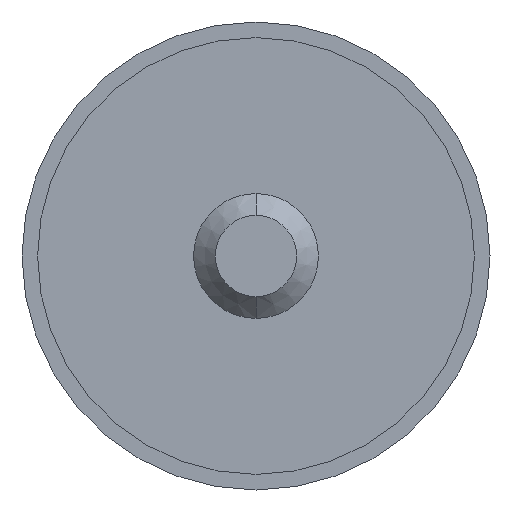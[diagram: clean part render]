
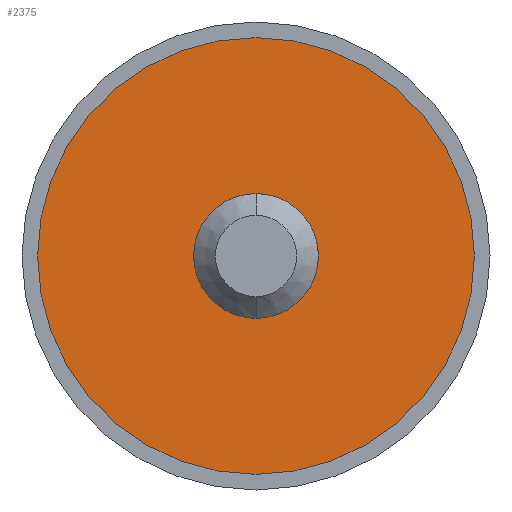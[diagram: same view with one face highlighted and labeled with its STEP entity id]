
A CAD part, front view. The second image highlights one B-rep face of the part: STEP entity #2375.
In plain terms, the highlighted planar face has unit normal (0, -1, 0).
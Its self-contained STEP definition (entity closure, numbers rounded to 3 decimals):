
#60 = VERTEX_POINT ( 'NONE', #3833 ) ;
#130 = DIRECTION ( 'NONE',  ( 0., 1., 0. ) ) ;
#323 = DIRECTION ( 'NONE',  ( 0., 0., 1. ) ) ;
#438 = EDGE_LOOP ( 'NONE', ( #1744, #2584 ) ) ;
#439 = DIRECTION ( 'NONE',  ( 0., 0., 1. ) ) ;
#562 = CIRCLE ( 'NONE', #3348, 2. ) ;
#751 = CARTESIAN_POINT ( 'NONE',  ( 0., -0.5, 2. ) ) ;
#753 = DIRECTION ( 'NONE',  ( 0., -1., 0. ) ) ;
#1021 = AXIS2_PLACEMENT_3D ( 'NONE', #3658, #4348, #323 ) ;
#1316 = AXIS2_PLACEMENT_3D ( 'NONE', #3145, #2383, #2034 ) ;
#1645 = AXIS2_PLACEMENT_3D ( 'NONE', #3078, #4515, #3804 ) ;
#1744 = ORIENTED_EDGE ( 'NONE', *, *, #3604, .F. ) ;
#1806 = VERTEX_POINT ( 'NONE', #4616 ) ;
#1817 = CARTESIAN_POINT ( 'NONE',  ( 0., -0.5, 0. ) ) ;
#1955 = ORIENTED_EDGE ( 'NONE', *, *, #3523, .F. ) ;
#2034 = DIRECTION ( 'NONE',  ( 0., 0., -1. ) ) ;
#2155 = EDGE_LOOP ( 'NONE', ( #1955, #3640 ) ) ;
#2222 = CARTESIAN_POINT ( 'NONE',  ( 0., -0.5, 7. ) ) ;
#2236 = VERTEX_POINT ( 'NONE', #751 ) ;
#2241 = FACE_OUTER_BOUND ( 'NONE', #2155, .T. ) ;
#2375 = ADVANCED_FACE ( 'NONE', ( #3563, #2241 ), #2647, .F. ) ;
#2383 = DIRECTION ( 'NONE',  ( 0., -1., 0. ) ) ;
#2457 = CIRCLE ( 'NONE', #1316, 2. ) ;
#2584 = ORIENTED_EDGE ( 'NONE', *, *, #4604, .F. ) ;
#2647 = PLANE ( 'NONE',  #4487 ) ;
#2804 = CIRCLE ( 'NONE', #1645, 7. ) ;
#3078 = CARTESIAN_POINT ( 'NONE',  ( 0., -0.5, 0. ) ) ;
#3145 = CARTESIAN_POINT ( 'NONE',  ( 0., -0.5, 0. ) ) ;
#3348 = AXIS2_PLACEMENT_3D ( 'NONE', #1817, #753, #4391 ) ;
#3388 = CARTESIAN_POINT ( 'NONE',  ( 0., -0.5, 0. ) ) ;
#3523 = EDGE_CURVE ( 'NONE', #3859, #60, #2804, .T. ) ;
#3563 = FACE_BOUND ( 'NONE', #438, .T. ) ;
#3604 = EDGE_CURVE ( 'NONE', #2236, #1806, #2457, .T. ) ;
#3640 = ORIENTED_EDGE ( 'NONE', *, *, #4102, .F. ) ;
#3658 = CARTESIAN_POINT ( 'NONE',  ( 0., -0.5, 0. ) ) ;
#3804 = DIRECTION ( 'NONE',  ( 0., 0., 1. ) ) ;
#3833 = CARTESIAN_POINT ( 'NONE',  ( 0., -0.5, -7. ) ) ;
#3859 = VERTEX_POINT ( 'NONE', #2222 ) ;
#4102 = EDGE_CURVE ( 'NONE', #60, #3859, #4500, .T. ) ;
#4348 = DIRECTION ( 'NONE',  ( 0., 1., 0. ) ) ;
#4391 = DIRECTION ( 'NONE',  ( 0., 0., -1. ) ) ;
#4487 = AXIS2_PLACEMENT_3D ( 'NONE', #3388, #130, #439 ) ;
#4500 = CIRCLE ( 'NONE', #1021, 7. ) ;
#4515 = DIRECTION ( 'NONE',  ( 0., 1., 0. ) ) ;
#4604 = EDGE_CURVE ( 'NONE', #1806, #2236, #562, .T. ) ;
#4616 = CARTESIAN_POINT ( 'NONE',  ( 0., -0.5, -2. ) ) ;
